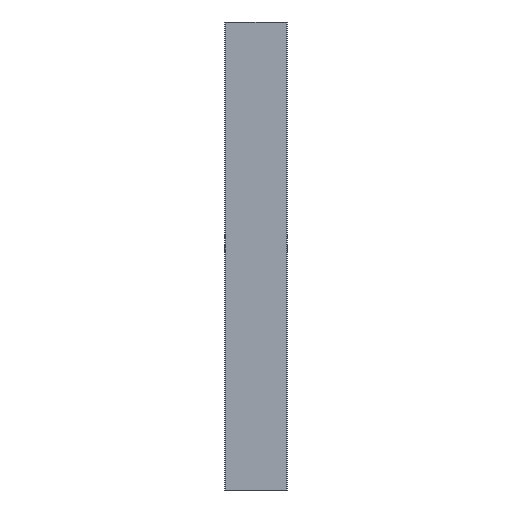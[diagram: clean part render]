
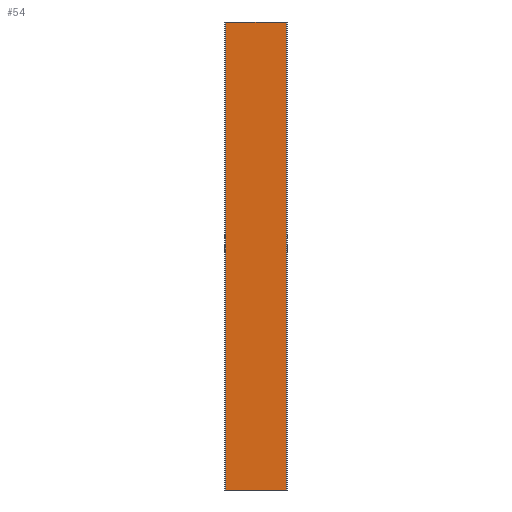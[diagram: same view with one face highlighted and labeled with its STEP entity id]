
A CAD part, front view. The second image highlights one B-rep face of the part: STEP entity #54.
In plain terms, the highlighted planar face has unit normal (0, -1, 0).
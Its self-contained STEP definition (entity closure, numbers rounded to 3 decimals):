
#12 = ORIENTED_EDGE ( 'NONE', *, *, #314, .F. ) ;
#32 = VERTEX_POINT ( 'NONE', #603 ) ;
#54 = ADVANCED_FACE ( 'NONE', ( #728 ), #965, .F. ) ;
#66 = CARTESIAN_POINT ( 'NONE',  ( -19.5, -10., 150. ) ) ;
#77 = LINE ( 'NONE', #1077, #1214 ) ;
#80 = CARTESIAN_POINT ( 'NONE',  ( -19.5, -10., -150. ) ) ;
#126 = VERTEX_POINT ( 'NONE', #66 ) ;
#157 = AXIS2_PLACEMENT_3D ( 'NONE', #976, #749, #843 ) ;
#200 = LINE ( 'NONE', #80, #420 ) ;
#235 = EDGE_CURVE ( 'NONE', #126, #735, #835, .T. ) ;
#312 = ORIENTED_EDGE ( 'NONE', *, *, #627, .F. ) ;
#314 = EDGE_CURVE ( 'NONE', #32, #708, #77, .T. ) ;
#420 = VECTOR ( 'NONE', #1206, 1000. ) ;
#538 = ORIENTED_EDGE ( 'NONE', *, *, #618, .T. ) ;
#586 = CARTESIAN_POINT ( 'NONE',  ( 19.5, -10., -150. ) ) ;
#602 = VECTOR ( 'NONE', #652, 1000. ) ;
#603 = CARTESIAN_POINT ( 'NONE',  ( 19.5, -10., 150. ) ) ;
#618 = EDGE_CURVE ( 'NONE', #735, #708, #200, .T. ) ;
#627 = EDGE_CURVE ( 'NONE', #126, #32, #926, .T. ) ;
#640 = DIRECTION ( 'NONE',  ( 0., 0., -1. ) ) ;
#652 = DIRECTION ( 'NONE',  ( 1., 0., 0. ) ) ;
#708 = VERTEX_POINT ( 'NONE', #586 ) ;
#728 = FACE_OUTER_BOUND ( 'NONE', #867, .T. ) ;
#735 = VERTEX_POINT ( 'NONE', #1036 ) ;
#749 = DIRECTION ( 'NONE',  ( 0., 1., 0. ) ) ;
#784 = CARTESIAN_POINT ( 'NONE',  ( -19.5, -10., 150. ) ) ;
#814 = CARTESIAN_POINT ( 'NONE',  ( -19.5, -10., 150. ) ) ;
#835 = LINE ( 'NONE', #814, #989 ) ;
#843 = DIRECTION ( 'NONE',  ( 0., 0., 1. ) ) ;
#853 = ORIENTED_EDGE ( 'NONE', *, *, #235, .T. ) ;
#867 = EDGE_LOOP ( 'NONE', ( #538, #12, #312, #853 ) ) ;
#926 = LINE ( 'NONE', #784, #602 ) ;
#952 = DIRECTION ( 'NONE',  ( 0., 0., -1. ) ) ;
#965 = PLANE ( 'NONE',  #157 ) ;
#976 = CARTESIAN_POINT ( 'NONE',  ( -19.5, -10., 150. ) ) ;
#989 = VECTOR ( 'NONE', #640, 1000. ) ;
#1036 = CARTESIAN_POINT ( 'NONE',  ( -19.5, -10., -150. ) ) ;
#1077 = CARTESIAN_POINT ( 'NONE',  ( 19.5, -10., 150. ) ) ;
#1206 = DIRECTION ( 'NONE',  ( 1., 0., 0. ) ) ;
#1214 = VECTOR ( 'NONE', #952, 1000. ) ;
